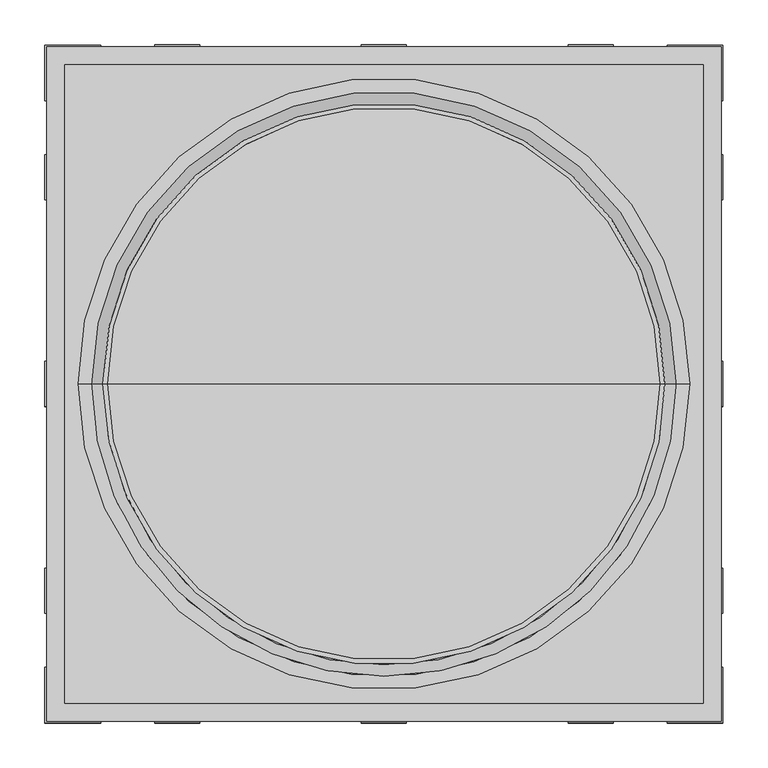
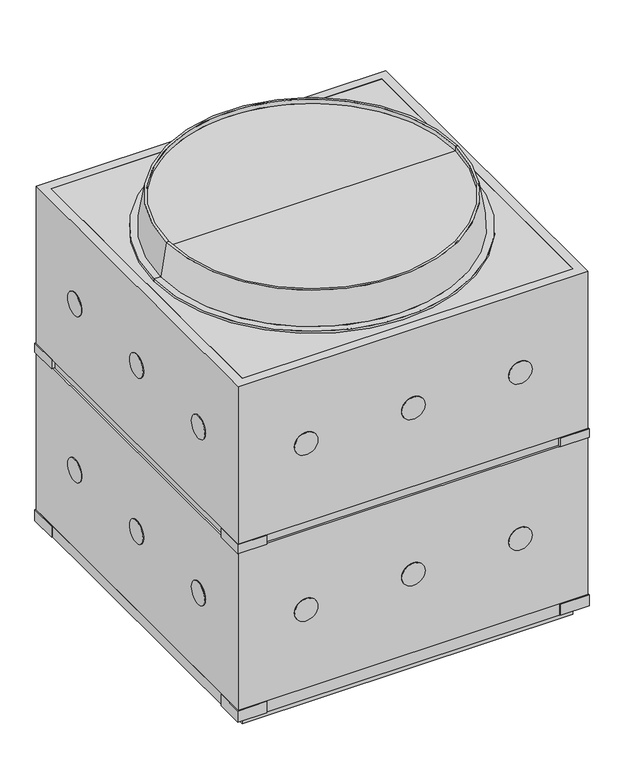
"""IFC4 building model written with IfcOpenShell, lengths in millimetres: cable carrier fitting geometry, КНС_КолодецПластиковыйСЛюком_750-750-750_270750-270750V0_DKC : Колодец кабельный 750×750×750_270750."""

from ifc_helpers import new_model, si_unit, point, frame, frame_2d, origin, place, context, project, spatial, polyline, circle_curve, trimmed, segment, composite_curve, outline, extrude, faceted_brep, source, transform, mapped, element, save
from ifc_brep_helpers import plane_surface, cylinder_surface, revolved_surface, advanced_brep


def cable_carrier_fitting_e228d21c(model_context):
    return source(origin(), model_context, "Body", "SolidModel", [
        advanced_brep(
        [(0.0, 0.0, 784.0), (-340.0, 0.0, 784.0), (340.0, 0.0, 784.0), (307.4878482, 0.0, 853.0), (-307.4878482, 0.0, 853.0), (0.0, 0.0, 853.0), (307.4878482, 0.0, 863.0), (-307.4878482, 0.0, 863.0), (312.4878482, 0.0, 863.0), (-312.4878482, 0.0, 863.0), (325.0, 0.0, 789.0), (-325.0, 0.0, 789.0), (340.0, 0.0, 789.0), (-340.0, 0.0, 789.0)],
        [
            (0, 1),
            (1, 2, circle_curve(frame((0.0, 0.0, 784.0), z_axis=(0.0, 0.0, -1.0), x_axis=(-1.0, 0.0, 0.0)), 340.0)),
            (2, 0),
            (2, 1, circle_curve(frame((0.0, 0.0, 784.0), z_axis=(0.0, 0.0, -1.0), x_axis=(-1.0, 0.0, 0.0)), 340.0)),
            (3, 4, circle_curve(frame((0.0, 0.0, 853.0), z_axis=(0.0, 0.0, 1.0), x_axis=(-1.0, 0.0, 0.0)), 307.4878482)),
            (4, 5),
            (5, 3),
            (4, 3, circle_curve(frame((0.0, 0.0, 853.0), z_axis=(0.0, 0.0, 1.0), x_axis=(-1.0, 0.0, 0.0)), 307.4878482)),
            (6, 7, circle_curve(frame((0.0, 0.0, 863.0), z_axis=(0.0, 0.0, 1.0), x_axis=(-1.0, 0.0, 0.0)), 307.4878482)),
            (7, 4),
            (3, 6),
            (7, 6, circle_curve(frame((0.0, 0.0, 863.0), z_axis=(0.0, 0.0, 1.0), x_axis=(-1.0, 0.0, 0.0)), 307.4878482)),
            (8, 9, circle_curve(frame((0.0, 0.0, 863.0), z_axis=(0.0, 0.0, 1.0), x_axis=(-1.0, 0.0, 0.0)), 312.4878482)),
            (9, 7),
            (6, 8),
            (9, 8, circle_curve(frame((0.0, 0.0, 863.0), z_axis=(0.0, 0.0, 1.0), x_axis=(-1.0, 0.0, 0.0)), 312.4878482)),
            (10, 11, circle_curve(frame((0.0, 0.0, 789.0), z_axis=(0.0, 0.0, 1.0), x_axis=(-1.0, 0.0, 0.0)), 325.0)),
            (11, 9),
            (8, 10),
            (11, 10, circle_curve(frame((0.0, 0.0, 789.0), z_axis=(0.0, 0.0, 1.0), x_axis=(-1.0, 0.0, 0.0)), 325.0)),
            (12, 13, circle_curve(frame((0.0, 0.0, 789.0), z_axis=(0.0, 0.0, 1.0), x_axis=(-1.0, 0.0, 0.0)), 340.0)),
            (13, 11),
            (10, 12),
            (13, 12, circle_curve(frame((0.0, 0.0, 789.0), z_axis=(0.0, 0.0, 1.0), x_axis=(-1.0, 0.0, 0.0)), 340.0)),
            (1, 13),
            (12, 2),
        ],
        [
            plane_surface(frame((0.0, 0.0, 784.0), z_axis=(0.0, 0.0, -1.0), x_axis=(-1.0, 0.0, 0.0))),
            plane_surface(frame((0.0, 0.0, 853.0), z_axis=(0.0, 0.0, 1.0), x_axis=(-1.0, 0.0, 0.0))),
            revolved_surface(polyline([(-307.4878482, 0.0, 853.0), (-307.4878482, 0.0, 863.0)]), (0.0, 0.0, 2214.3150031), (0.0, 0.0, -1.0)),
            plane_surface(frame((0.0, 0.0, 863.0), z_axis=(0.0, 0.0, 1.0), x_axis=(-1.0, 0.0, 0.0))),
            revolved_surface(polyline([(-312.4878482, 0.0, 863.0), (-325.0, 0.0, 789.0)]), (0.0, 0.0, 2214.3150031), (0.0, 0.0, -1.0)),
            plane_surface(frame((0.0, 0.0, 789.0), z_axis=(0.0, 0.0, 1.0), x_axis=(-1.0, 0.0, 0.0))),
            cylinder_surface(frame((0.0, 0.0, 2214.3150031), z_axis=(0.0, 0.0, -1.0), x_axis=(-1.0, 0.0, 0.0)), 340.0),
        ],
        [
            (0, [[1, 2, 3]]),
            (0, [[-3, 4, -1]]),
            (1, [[5, 6, 7]]),
            (1, [[8, -7, -6]]),
            (2, [[9, 10, -5, 11]]),
            (2, [[12, -11, -8, -10]]),
            (3, [[13, 14, -9, 15]]),
            (3, [[16, -15, -12, -14]]),
            (4, [[17, 18, -13, 19]]),
            (4, [[20, -19, -16, -18]]),
            (5, [[21, 22, -17, 23]]),
            (5, [[24, -23, -20, -22]]),
            (6, [[-2, 25, -21, 26]]),
            (6, [[-4, -26, -24, -25]]),
        ],
    ),
        faceted_brep([(375.0, 375.0, 784.0), (-375.0, 375.0, 784.0), (-375.0, -375.0, 784.0), (375.0, -375.0, 784.0), (-355.0, 355.0, 784.0), (355.0, 355.0, 784.0), (355.0, -355.0, 784.0), (-355.0, -355.0, 784.0), (375.0, 375.0, 50.0), (375.0, -375.0, 50.0), (-375.0, -375.0, 50.0), (-375.0, 375.0, 50.0), (355.0, 355.0, 50.0), (-355.0, 355.0, 50.0), (-355.0, -355.0, 50.0), (355.0, -355.0, 50.0), (375.0, 375.0, 427.0), (-375.0, 375.0, 427.0), (-375.0, 375.0, 407.0), (375.0, 375.0, 407.0), (-375.0, -375.0, 427.0), (-375.0, -375.0, 407.0), (375.0, -375.0, 427.0), (375.0, -375.0, 407.0), (-370.0, 370.0, 407.0), (-370.0, -370.0, 407.0), (-370.0, -370.0, 427.0), (-370.0, 370.0, 427.0), (370.0, -370.0, 407.0), (370.0, -370.0, 427.0), (370.0, 370.0, 407.0), (370.0, 370.0, 427.0)], [[[0, 1, 2, 3], [4, 5, 6, 7]], [[8, 9, 10, 11], [12, 13, 14, 15]], [[1, 0, 16, 17]], [[8, 11, 18, 19]], [[2, 1, 17, 20]], [[11, 10, 21, 18]], [[3, 2, 20, 22]], [[10, 9, 23, 21]], [[0, 3, 22, 16]], [[9, 8, 19, 23]], [[24, 25, 26, 27]], [[26, 25, 28, 29]], [[29, 28, 30, 31]], [[24, 27, 31, 30]], [[19, 18, 21, 23], [25, 24, 30, 28]], [[17, 16, 22, 20], [27, 26, 29, 31]], [[4, 13, 12, 5]], [[13, 4, 7, 14]], [[14, 7, 6, 15]], [[5, 12, 15, 6]]]),
        faceted_brep([(375.0, 375.0, 50.0), (-375.0, 375.0, 50.0), (-375.0, -375.0, 50.0), (375.0, -375.0, 50.0), (355.0, 355.0, 0.0), (355.0, -355.0, 0.0), (-355.0, -355.0, 0.0), (-355.0, 355.0, 0.0), (375.0, 375.0, 25.0), (-375.0, 375.0, 25.0), (-375.0, -375.0, 25.0), (375.0, -375.0, 25.0), (355.0, 355.0, 25.0), (355.0, -355.0, 25.0), (-355.0, -355.0, 25.0), (-355.0, 355.0, 25.0)], [[[0, 1, 2, 3]], [[4, 5, 6, 7]], [[1, 0, 8, 9]], [[2, 1, 9, 10]], [[3, 2, 10, 11]], [[0, 3, 11, 8]], [[12, 13, 5, 4]], [[5, 13, 14, 6]], [[6, 14, 15, 7]], [[12, 4, 7, 15]], [[9, 8, 11, 10], [13, 12, 15, 14]]]),
        extrude(outline(polyline([(355.0, 355.0), (355.0, -355.0), (-355.0, -355.0), (-355.0, 355.0), (355.0, 355.0)])), frame((0.0, 0.0, 750.0), z_axis=(0.0, 0.0, 1.0), x_axis=(1.0, 0.0, 0.0)), (0.0, 0.0, 1.0), 34.0),
        extrude(outline(composite_curve([segment(trimmed(circle_curve(frame_2d((605.5, -230.0)), 25.0), [point((605.5, -205.0))], [point((605.5, -255.0))], False, "CARTESIAN"), True, "CONTINUOUS"), segment(trimmed(circle_curve(frame_2d((605.5, -230.0)), 25.0), [point((605.5, -255.0))], [point((605.5, -205.0))], False, "CARTESIAN"), True, "CONTINUOUS")], self_intersect=False)), frame((0.0, 375.0, 0.0), z_axis=(0.0, 1.0, 0.0), x_axis=(0.0, 0.0, 1.0)), (0.0, 0.0, 1.0), 2.0),
        extrude(outline(composite_curve([segment(trimmed(circle_curve(frame_2d((605.5, 0.0)), 25.0), [point((605.5, 25.0))], [point((605.5, -25.0))], False, "CARTESIAN"), True, "CONTINUOUS"), segment(trimmed(circle_curve(frame_2d((605.5, 0.0)), 25.0), [point((605.5, -25.0))], [point((605.5, 25.0))], False, "CARTESIAN"), True, "CONTINUOUS")], self_intersect=False)), frame((0.0, 375.0, 0.0), z_axis=(0.0, 1.0, 0.0), x_axis=(0.0, 0.0, 1.0)), (0.0, 0.0, 1.0), 2.0),
        extrude(outline(composite_curve([segment(trimmed(circle_curve(frame_2d((605.5, 230.0)), 25.0), [point((605.5, 255.0))], [point((605.5, 205.0))], False, "CARTESIAN"), True, "CONTINUOUS"), segment(trimmed(circle_curve(frame_2d((605.5, 230.0)), 25.0), [point((605.5, 205.0))], [point((605.5, 255.0))], False, "CARTESIAN"), True, "CONTINUOUS")], self_intersect=False)), frame((0.0, 375.0, 0.0), z_axis=(0.0, 1.0, 0.0), x_axis=(0.0, 0.0, 1.0)), (0.0, 0.0, 1.0), 2.0),
        extrude(outline(composite_curve([segment(trimmed(circle_curve(frame_2d((228.5, -230.0)), 25.0), [point((228.5, -205.0))], [point((228.5, -255.0))], False, "CARTESIAN"), True, "CONTINUOUS"), segment(trimmed(circle_curve(frame_2d((228.5, -230.0)), 25.0), [point((228.5, -255.0))], [point((228.5, -205.0))], False, "CARTESIAN"), True, "CONTINUOUS")], self_intersect=False)), frame((0.0, 375.0, 0.0), z_axis=(0.0, 1.0, 0.0), x_axis=(0.0, 0.0, 1.0)), (0.0, 0.0, 1.0), 2.0),
        extrude(outline(composite_curve([segment(trimmed(circle_curve(frame_2d((228.5, 0.0)), 25.0), [point((228.5, 25.0))], [point((228.5, -25.0))], False, "CARTESIAN"), True, "CONTINUOUS"), segment(trimmed(circle_curve(frame_2d((228.5, 0.0)), 25.0), [point((228.5, -25.0))], [point((228.5, 25.0))], False, "CARTESIAN"), True, "CONTINUOUS")], self_intersect=False)), frame((0.0, 375.0, 0.0), z_axis=(0.0, 1.0, 0.0), x_axis=(0.0, 0.0, 1.0)), (0.0, 0.0, 1.0), 2.0),
        extrude(outline(composite_curve([segment(trimmed(circle_curve(frame_2d((228.5, 230.0)), 25.0), [point((228.5, 255.0))], [point((228.5, 205.0))], False, "CARTESIAN"), True, "CONTINUOUS"), segment(trimmed(circle_curve(frame_2d((228.5, 230.0)), 25.0), [point((228.5, 205.0))], [point((228.5, 255.0))], False, "CARTESIAN"), True, "CONTINUOUS")], self_intersect=False)), frame((0.0, 375.0, 0.0), z_axis=(0.0, 1.0, 0.0), x_axis=(0.0, 0.0, 1.0)), (0.0, 0.0, 1.0), 2.0),
        extrude(outline(composite_curve([segment(trimmed(circle_curve(frame_2d((605.5, -230.0)), 25.0), [point((605.5, -205.0))], [point((605.5, -255.0))], False, "CARTESIAN"), True, "CONTINUOUS"), segment(trimmed(circle_curve(frame_2d((605.5, -230.0)), 25.0), [point((605.5, -255.0))], [point((605.5, -205.0))], False, "CARTESIAN"), True, "CONTINUOUS")], self_intersect=False)), frame((0.0, -377.0, 0.0), z_axis=(0.0, 1.0, 0.0), x_axis=(0.0, 0.0, 1.0)), (0.0, 0.0, 1.0), 2.0),
        extrude(outline(composite_curve([segment(trimmed(circle_curve(frame_2d((605.5, 0.0)), 25.0), [point((605.5, 25.0))], [point((605.5, -25.0))], False, "CARTESIAN"), True, "CONTINUOUS"), segment(trimmed(circle_curve(frame_2d((605.5, 0.0)), 25.0), [point((605.5, -25.0))], [point((605.5, 25.0))], False, "CARTESIAN"), True, "CONTINUOUS")], self_intersect=False)), frame((0.0, -377.0, 0.0), z_axis=(0.0, 1.0, 0.0), x_axis=(0.0, 0.0, 1.0)), (0.0, 0.0, 1.0), 2.0),
        extrude(outline(composite_curve([segment(trimmed(circle_curve(frame_2d((605.5, 230.0)), 25.0), [point((605.5, 255.0))], [point((605.5, 205.0))], False, "CARTESIAN"), True, "CONTINUOUS"), segment(trimmed(circle_curve(frame_2d((605.5, 230.0)), 25.0), [point((605.5, 205.0))], [point((605.5, 255.0))], False, "CARTESIAN"), True, "CONTINUOUS")], self_intersect=False)), frame((0.0, -377.0, 0.0), z_axis=(0.0, 1.0, 0.0), x_axis=(0.0, 0.0, 1.0)), (0.0, 0.0, 1.0), 2.0),
        extrude(outline(composite_curve([segment(trimmed(circle_curve(frame_2d((228.5, -230.0)), 25.0), [point((228.5, -205.0))], [point((228.5, -255.0))], False, "CARTESIAN"), True, "CONTINUOUS"), segment(trimmed(circle_curve(frame_2d((228.5, -230.0)), 25.0), [point((228.5, -255.0))], [point((228.5, -205.0))], False, "CARTESIAN"), True, "CONTINUOUS")], self_intersect=False)), frame((0.0, -377.0, 0.0), z_axis=(0.0, 1.0, 0.0), x_axis=(0.0, 0.0, 1.0)), (0.0, 0.0, 1.0), 2.0),
        extrude(outline(composite_curve([segment(trimmed(circle_curve(frame_2d((228.5, 0.0)), 25.0), [point((228.5, 25.0))], [point((228.5, -25.0))], False, "CARTESIAN"), True, "CONTINUOUS"), segment(trimmed(circle_curve(frame_2d((228.5, 0.0)), 25.0), [point((228.5, -25.0))], [point((228.5, 25.0))], False, "CARTESIAN"), True, "CONTINUOUS")], self_intersect=False)), frame((0.0, -377.0, 0.0), z_axis=(0.0, 1.0, 0.0), x_axis=(0.0, 0.0, 1.0)), (0.0, 0.0, 1.0), 2.0),
        extrude(outline(composite_curve([segment(trimmed(circle_curve(frame_2d((228.5, 230.0)), 25.0), [point((228.5, 255.0))], [point((228.5, 205.0))], False, "CARTESIAN"), True, "CONTINUOUS"), segment(trimmed(circle_curve(frame_2d((228.5, 230.0)), 25.0), [point((228.5, 205.0))], [point((228.5, 255.0))], False, "CARTESIAN"), True, "CONTINUOUS")], self_intersect=False)), frame((0.0, -377.0, 0.0), z_axis=(0.0, 1.0, 0.0), x_axis=(0.0, 0.0, 1.0)), (0.0, 0.0, 1.0), 2.0),
        extrude(outline(composite_curve([segment(trimmed(circle_curve(frame_2d((-230.0, 605.5)), 25.0), [point((-255.0, 605.5))], [point((-205.0, 605.5))], False, "CARTESIAN"), True, "CONTINUOUS"), segment(trimmed(circle_curve(frame_2d((-230.0, 605.5)), 25.0), [point((-205.0, 605.5))], [point((-255.0, 605.5))], False, "CARTESIAN"), True, "CONTINUOUS")], self_intersect=False)), frame((-377.0, 0.0, 0.0), z_axis=(1.0, 0.0, 0.0), x_axis=(0.0, 1.0, 0.0)), (0.0, 0.0, 1.0), 2.0),
        extrude(outline(composite_curve([segment(trimmed(circle_curve(frame_2d((0.0, 605.5)), 25.0), [point((-25.0, 605.5))], [point((25.0, 605.5))], False, "CARTESIAN"), True, "CONTINUOUS"), segment(trimmed(circle_curve(frame_2d((0.0, 605.5)), 25.0), [point((25.0, 605.5))], [point((-25.0, 605.5))], False, "CARTESIAN"), True, "CONTINUOUS")], self_intersect=False)), frame((-377.0, 0.0, 0.0), z_axis=(1.0, 0.0, 0.0), x_axis=(0.0, 1.0, 0.0)), (0.0, 0.0, 1.0), 2.0),
        extrude(outline(composite_curve([segment(trimmed(circle_curve(frame_2d((230.0, 605.5)), 25.0), [point((205.0, 605.5))], [point((255.0, 605.5))], False, "CARTESIAN"), True, "CONTINUOUS"), segment(trimmed(circle_curve(frame_2d((230.0, 605.5)), 25.0), [point((255.0, 605.5))], [point((205.0, 605.5))], False, "CARTESIAN"), True, "CONTINUOUS")], self_intersect=False)), frame((-377.0, 0.0, 0.0), z_axis=(1.0, 0.0, 0.0), x_axis=(0.0, 1.0, 0.0)), (0.0, 0.0, 1.0), 2.0),
        extrude(outline(composite_curve([segment(trimmed(circle_curve(frame_2d((-230.0, 228.5)), 25.0), [point((-255.0, 228.5))], [point((-205.0, 228.5))], False, "CARTESIAN"), True, "CONTINUOUS"), segment(trimmed(circle_curve(frame_2d((-230.0, 228.5)), 25.0), [point((-205.0, 228.5))], [point((-255.0, 228.5))], False, "CARTESIAN"), True, "CONTINUOUS")], self_intersect=False)), frame((-377.0, 0.0, 0.0), z_axis=(1.0, 0.0, 0.0), x_axis=(0.0, 1.0, 0.0)), (0.0, 0.0, 1.0), 2.0),
        extrude(outline(composite_curve([segment(trimmed(circle_curve(frame_2d((0.0, 228.5)), 25.0), [point((-25.0, 228.5))], [point((25.0, 228.5))], False, "CARTESIAN"), True, "CONTINUOUS"), segment(trimmed(circle_curve(frame_2d((0.0, 228.5)), 25.0), [point((25.0, 228.5))], [point((-25.0, 228.5))], False, "CARTESIAN"), True, "CONTINUOUS")], self_intersect=False)), frame((-377.0, 0.0, 0.0), z_axis=(1.0, 0.0, 0.0), x_axis=(0.0, 1.0, 0.0)), (0.0, 0.0, 1.0), 2.0),
        extrude(outline(composite_curve([segment(trimmed(circle_curve(frame_2d((230.0, 228.5)), 25.0), [point((205.0, 228.5))], [point((255.0, 228.5))], False, "CARTESIAN"), True, "CONTINUOUS"), segment(trimmed(circle_curve(frame_2d((230.0, 228.5)), 25.0), [point((255.0, 228.5))], [point((205.0, 228.5))], False, "CARTESIAN"), True, "CONTINUOUS")], self_intersect=False)), frame((-377.0, 0.0, 0.0), z_axis=(1.0, 0.0, 0.0), x_axis=(0.0, 1.0, 0.0)), (0.0, 0.0, 1.0), 2.0),
        extrude(outline(composite_curve([segment(trimmed(circle_curve(frame_2d((-230.0, 605.5)), 25.0), [point((-255.0, 605.5))], [point((-205.0, 605.5))], False, "CARTESIAN"), True, "CONTINUOUS"), segment(trimmed(circle_curve(frame_2d((-230.0, 605.5)), 25.0), [point((-205.0, 605.5))], [point((-255.0, 605.5))], False, "CARTESIAN"), True, "CONTINUOUS")], self_intersect=False)), frame((375.0, 0.0, 0.0), z_axis=(1.0, 0.0, 0.0), x_axis=(0.0, 1.0, 0.0)), (0.0, 0.0, 1.0), 2.0),
        extrude(outline(composite_curve([segment(trimmed(circle_curve(frame_2d((0.0, 605.5)), 25.0), [point((-25.0, 605.5))], [point((25.0, 605.5))], False, "CARTESIAN"), True, "CONTINUOUS"), segment(trimmed(circle_curve(frame_2d((0.0, 605.5)), 25.0), [point((25.0, 605.5))], [point((-25.0, 605.5))], False, "CARTESIAN"), True, "CONTINUOUS")], self_intersect=False)), frame((375.0, 0.0, 0.0), z_axis=(1.0, 0.0, 0.0), x_axis=(0.0, 1.0, 0.0)), (0.0, 0.0, 1.0), 2.0),
        extrude(outline(composite_curve([segment(trimmed(circle_curve(frame_2d((230.0, 605.5)), 25.0), [point((205.0, 605.5))], [point((255.0, 605.5))], False, "CARTESIAN"), True, "CONTINUOUS"), segment(trimmed(circle_curve(frame_2d((230.0, 605.5)), 25.0), [point((255.0, 605.5))], [point((205.0, 605.5))], False, "CARTESIAN"), True, "CONTINUOUS")], self_intersect=False)), frame((375.0, 0.0, 0.0), z_axis=(1.0, 0.0, 0.0), x_axis=(0.0, 1.0, 0.0)), (0.0, 0.0, 1.0), 2.0),
        extrude(outline(composite_curve([segment(trimmed(circle_curve(frame_2d((-230.0, 228.5)), 25.0), [point((-255.0, 228.5))], [point((-205.0, 228.5))], False, "CARTESIAN"), True, "CONTINUOUS"), segment(trimmed(circle_curve(frame_2d((-230.0, 228.5)), 25.0), [point((-205.0, 228.5))], [point((-255.0, 228.5))], False, "CARTESIAN"), True, "CONTINUOUS")], self_intersect=False)), frame((375.0, 0.0, 0.0), z_axis=(1.0, 0.0, 0.0), x_axis=(0.0, 1.0, 0.0)), (0.0, 0.0, 1.0), 2.0),
        extrude(outline(composite_curve([segment(trimmed(circle_curve(frame_2d((0.0, 228.5)), 25.0), [point((-25.0, 228.5))], [point((25.0, 228.5))], False, "CARTESIAN"), True, "CONTINUOUS"), segment(trimmed(circle_curve(frame_2d((0.0, 228.5)), 25.0), [point((25.0, 228.5))], [point((-25.0, 228.5))], False, "CARTESIAN"), True, "CONTINUOUS")], self_intersect=False)), frame((375.0, 0.0, 0.0), z_axis=(1.0, 0.0, 0.0), x_axis=(0.0, 1.0, 0.0)), (0.0, 0.0, 1.0), 2.0),
        extrude(outline(composite_curve([segment(trimmed(circle_curve(frame_2d((230.0, 228.5)), 25.0), [point((205.0, 228.5))], [point((255.0, 228.5))], False, "CARTESIAN"), True, "CONTINUOUS"), segment(trimmed(circle_curve(frame_2d((230.0, 228.5)), 25.0), [point((255.0, 228.5))], [point((205.0, 228.5))], False, "CARTESIAN"), True, "CONTINUOUS")], self_intersect=False)), frame((375.0, 0.0, 0.0), z_axis=(1.0, 0.0, 0.0), x_axis=(0.0, 1.0, 0.0)), (0.0, 0.0, 1.0), 2.0),
        extrude(outline(polyline([(-377.0, 315.0), (-377.0, 377.0), (-315.0, 377.0), (-315.0, 355.0), (-355.0, 355.0), (-355.0, 315.0), (-377.0, 315.0)])), frame((0.0, 0.0, 25.0), z_axis=(0.0, 0.0, 1.0), x_axis=(1.0, 0.0, 0.0)), (0.0, 0.0, 1.0), 25.0),
        extrude(outline(polyline([(377.0, 315.0), (355.0, 315.0), (355.0, 355.0), (315.0, 355.0), (315.0, 377.0), (377.0, 377.0), (377.0, 315.0)])), frame((0.0, 0.0, 25.0), z_axis=(0.0, 0.0, 1.0), x_axis=(1.0, 0.0, 0.0)), (0.0, 0.0, 1.0), 25.0),
        extrude(outline(polyline([(-377.0, -315.0), (-355.0, -315.0), (-355.0, -355.0), (-315.0, -355.0), (-315.0, -377.0), (-377.0, -377.0), (-377.0, -315.0)])), frame((0.0, 0.0, 25.0), z_axis=(0.0, 0.0, 1.0), x_axis=(1.0, 0.0, 0.0)), (0.0, 0.0, 1.0), 25.0),
        extrude(outline(polyline([(377.0, -315.0), (377.0, -377.0), (315.0, -377.0), (315.0, -355.0), (355.0, -355.0), (355.0, -315.0), (377.0, -315.0)])), frame((0.0, 0.0, 25.0), z_axis=(0.0, 0.0, 1.0), x_axis=(1.0, 0.0, 0.0)), (0.0, 0.0, 1.0), 25.0),
        extrude(outline(polyline([(377.0, -315.0), (377.0, -377.0), (315.0, -377.0), (315.0, -356.0), (356.0, -356.0), (356.0, -315.0), (377.0, -315.0)])), frame((0.0, 0.0, 407.0), z_axis=(0.0, 0.0, 1.0), x_axis=(1.0, 0.0, 0.0)), (0.0, 0.0, 1.0), 20.0),
        extrude(outline(polyline([(-377.0, -315.0), (-356.0, -315.0), (-356.0, -356.0), (-315.0, -356.0), (-315.0, -377.0), (-377.0, -377.0), (-377.0, -315.0)])), frame((0.0, 0.0, 407.0), z_axis=(0.0, 0.0, 1.0), x_axis=(1.0, 0.0, 0.0)), (0.0, 0.0, 1.0), 20.0),
        extrude(outline(polyline([(377.0, 315.0), (356.0, 315.0), (356.0, 356.0), (315.0, 356.0), (315.0, 377.0), (377.0, 377.0), (377.0, 315.0)])), frame((0.0, 0.0, 407.0), z_axis=(0.0, 0.0, 1.0), x_axis=(1.0, 0.0, 0.0)), (0.0, 0.0, 1.0), 20.0),
        extrude(outline(polyline([(-377.0, 315.0), (-377.0, 377.0), (-315.0, 377.0), (-315.0, 356.0), (-356.0, 356.0), (-356.0, 315.0), (-377.0, 315.0)])), frame((0.0, 0.0, 407.0), z_axis=(0.0, 0.0, 1.0), x_axis=(1.0, 0.0, 0.0)), (0.0, 0.0, 1.0), 20.0),
    ])


if __name__ == "__main__":
    model = new_model("IFC4")
    model_context = context("Model", 3, world=origin())
    ifc_project = project(units=[si_unit("LENGTHUNIT", "METRE", prefix="MILLI")], contexts=[model_context])
    site = spatial("IfcSite", under=ifc_project)
    building = spatial("IfcBuilding", under=site)
    placement = place(None, origin())
    cable_carrier_fitting_shape = cable_carrier_fitting_e228d21c(model_context)
    element("IfcCableCarrierFitting", 1, ObjectType="КНС_КолодецПластиковыйСЛюком_750-750-750_270750-270750V0_DKC : Колодец кабельный 750×750×750_270750", at=placement, inside=building, context=model_context, shape_type="MappedRepresentation", body=[
        mapped(cable_carrier_fitting_shape, transform((0.0, 0.0, 0.0), x_axis=(1.0, 0.0, 0.0), y_axis=(0.0, 1.0, 0.0), z_axis=(0.0, 0.0, 1.0))),
    ])
    save(model, "model.ifc")
